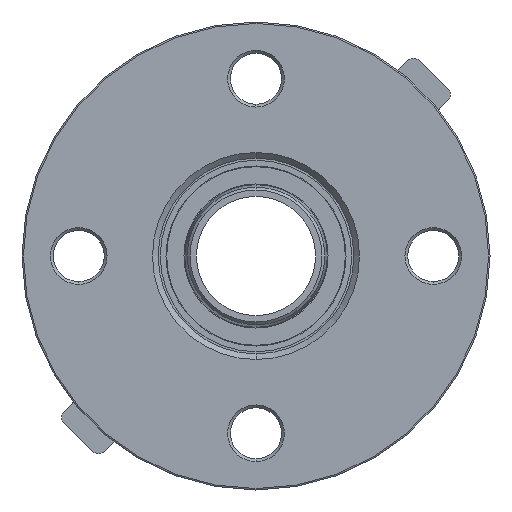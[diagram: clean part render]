
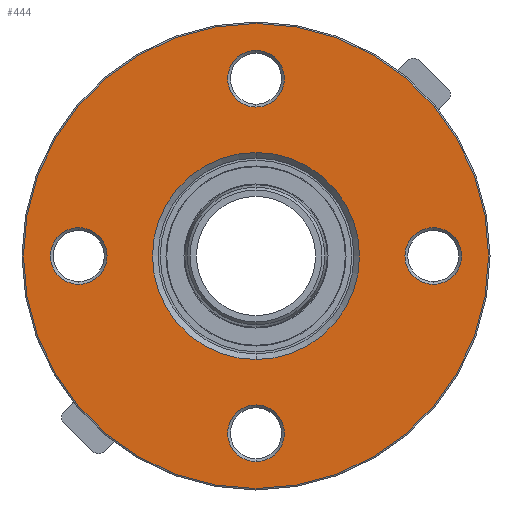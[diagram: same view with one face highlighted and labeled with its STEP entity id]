
A CAD part, left-side view. The second image highlights one B-rep face of the part: STEP entity #444.
In plain terms, the highlighted planar face has unit normal (-1, 0, 0).
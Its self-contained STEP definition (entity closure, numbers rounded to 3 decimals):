
#74 = VERTEX_POINT ( 'NONE', #1128 ) ;
#78 = EDGE_CURVE ( 'NONE', #120, #79, #1077, .T. ) ;
#79 = VERTEX_POINT ( 'NONE', #1074 ) ;
#103 = VERTEX_POINT ( 'NONE', #1293 ) ;
#105 = VERTEX_POINT ( 'NONE', #1275 ) ;
#108 = EDGE_CURVE ( 'NONE', #74, #103, #1294, .T. ) ;
#118 = VERTEX_POINT ( 'NONE', #1382 ) ;
#119 = EDGE_CURVE ( 'NONE', #118, #105, #1416, .T. ) ;
#120 = VERTEX_POINT ( 'NONE', #1412 ) ;
#195 = EDGE_CURVE ( 'NONE', #365, #366, #1494, .T. ) ;
#237 = EDGE_CURVE ( 'NONE', #253, #240, #1533, .T. ) ;
#240 = VERTEX_POINT ( 'NONE', #1572 ) ;
#252 = EDGE_CURVE ( 'NONE', #374, #375, #1577, .T. ) ;
#253 = VERTEX_POINT ( 'NONE', #1560 ) ;
#365 = VERTEX_POINT ( 'NONE', #1747 ) ;
#366 = VERTEX_POINT ( 'NONE', #1754 ) ;
#374 = VERTEX_POINT ( 'NONE', #1696 ) ;
#375 = VERTEX_POINT ( 'NONE', #1701 ) ;
#386 = ORIENTED_EDGE ( 'NONE', *, *, #626, .T. ) ;
#388 = ORIENTED_EDGE ( 'NONE', *, *, #237, .T. ) ;
#389 = EDGE_LOOP ( 'NONE', ( #628, #751 ) ) ;
#396 = EDGE_CURVE ( 'NONE', #105, #118, #1782, .T. ) ;
#436 = EDGE_LOOP ( 'NONE', ( #538, #530 ) ) ;
#443 = EDGE_LOOP ( 'NONE', ( #452, #445 ) ) ;
#444 = ADVANCED_FACE ( 'NONE', ( #2093, #1927, #2081, #1925, #1924, #1922 ), #1926, .F. ) ;
#445 = ORIENTED_EDGE ( 'NONE', *, *, #446, .T. ) ;
#446 = EDGE_CURVE ( 'NONE', #79, #120, #1913, .T. ) ;
#452 = ORIENTED_EDGE ( 'NONE', *, *, #78, .T. ) ;
#453 = ORIENTED_EDGE ( 'NONE', *, *, #119, .T. ) ;
#512 = EDGE_CURVE ( 'NONE', #375, #374, #1982, .T. ) ;
#513 = EDGE_LOOP ( 'NONE', ( #453, #765 ) ) ;
#530 = ORIENTED_EDGE ( 'NONE', *, *, #512, .T. ) ;
#538 = ORIENTED_EDGE ( 'NONE', *, *, #252, .T. ) ;
#625 = EDGE_CURVE ( 'NONE', #103, #74, #2116, .T. ) ;
#626 = EDGE_CURVE ( 'NONE', #240, #253, #2108, .T. ) ;
#628 = ORIENTED_EDGE ( 'NONE', *, *, #108, .T. ) ;
#639 = ORIENTED_EDGE ( 'NONE', *, *, #195, .T. ) ;
#750 = EDGE_LOOP ( 'NONE', ( #639, #762 ) ) ;
#751 = ORIENTED_EDGE ( 'NONE', *, *, #625, .T. ) ;
#752 = EDGE_LOOP ( 'NONE', ( #386, #388 ) ) ;
#762 = ORIENTED_EDGE ( 'NONE', *, *, #764, .T. ) ;
#764 = EDGE_CURVE ( 'NONE', #366, #365, #2444, .T. ) ;
#765 = ORIENTED_EDGE ( 'NONE', *, *, #396, .T. ) ;
#1071 = DIRECTION ( 'NONE',  ( 0., 0., -1. ) ) ;
#1072 = DIRECTION ( 'NONE',  ( 1., 0., 0. ) ) ;
#1073 = CARTESIAN_POINT ( 'NONE',  ( -29.224, -55.252, 10.787 ) ) ;
#1074 = CARTESIAN_POINT ( 'NONE',  ( -29.224, -55.252, 0.787 ) ) ;
#1077 = CIRCLE ( 'NONE', #1152, 10. ) ;
#1128 = CARTESIAN_POINT ( 'NONE',  ( -29.224, 7.248, 83.287 ) ) ;
#1152 = AXIS2_PLACEMENT_3D ( 'NONE', #1073, #1072, #1071 ) ;
#1258 = DIRECTION ( 'NONE',  ( 0., 0., -1. ) ) ;
#1259 = DIRECTION ( 'NONE',  ( 1., 0., 0. ) ) ;
#1260 = CARTESIAN_POINT ( 'NONE',  ( -29.224, 7.248, 73.287 ) ) ;
#1261 = AXIS2_PLACEMENT_3D ( 'NONE', #1260, #1259, #1258 ) ;
#1275 = CARTESIAN_POINT ( 'NONE',  ( -29.224, 69.748, 0.787 ) ) ;
#1293 = CARTESIAN_POINT ( 'NONE',  ( -29.224, 7.248, 63.287 ) ) ;
#1294 = CIRCLE ( 'NONE', #1261, 10. ) ;
#1382 = CARTESIAN_POINT ( 'NONE',  ( -29.224, 69.748, 20.787 ) ) ;
#1409 = DIRECTION ( 'NONE',  ( 0., 0., -1. ) ) ;
#1410 = DIRECTION ( 'NONE',  ( 1., 0., 0. ) ) ;
#1411 = CARTESIAN_POINT ( 'NONE',  ( -29.224, 69.748, 10.787 ) ) ;
#1412 = CARTESIAN_POINT ( 'NONE',  ( -29.224, -55.252, 20.787 ) ) ;
#1416 = CIRCLE ( 'NONE', #1422, 10. ) ;
#1422 = AXIS2_PLACEMENT_3D ( 'NONE', #1411, #1410, #1409 ) ;
#1466 = DIRECTION ( 'NONE',  ( 0., 0., -1. ) ) ;
#1467 = DIRECTION ( 'NONE',  ( 1., 0., 0. ) ) ;
#1468 = CARTESIAN_POINT ( 'NONE',  ( -29.224, 7.248, -51.713 ) ) ;
#1469 = AXIS2_PLACEMENT_3D ( 'NONE', #1468, #1467, #1466 ) ;
#1479 = DIRECTION ( 'NONE',  ( 0., 0., -1. ) ) ;
#1480 = DIRECTION ( 'NONE',  ( 1., 0., 0. ) ) ;
#1481 = CARTESIAN_POINT ( 'NONE',  ( -29.224, 7.248, 10.787 ) ) ;
#1494 = CIRCLE ( 'NONE', #1499, 36.5 ) ;
#1499 = AXIS2_PLACEMENT_3D ( 'NONE', #1481, #1480, #1479 ) ;
#1533 = CIRCLE ( 'NONE', #1583, 82. ) ;
#1560 = CARTESIAN_POINT ( 'NONE',  ( -29.224, 7.248, 92.787 ) ) ;
#1572 = CARTESIAN_POINT ( 'NONE',  ( -29.224, 7.248, -71.213 ) ) ;
#1577 = CIRCLE ( 'NONE', #1469, 10. ) ;
#1580 = DIRECTION ( 'NONE',  ( 0., 0., -1. ) ) ;
#1581 = DIRECTION ( 'NONE',  ( -1., 0., 0. ) ) ;
#1582 = CARTESIAN_POINT ( 'NONE',  ( -29.224, 7.248, 10.787 ) ) ;
#1583 = AXIS2_PLACEMENT_3D ( 'NONE', #1582, #1581, #1580 ) ;
#1696 = CARTESIAN_POINT ( 'NONE',  ( -29.224, 7.248, -41.713 ) ) ;
#1701 = CARTESIAN_POINT ( 'NONE',  ( -29.224, 7.248, -61.713 ) ) ;
#1747 = CARTESIAN_POINT ( 'NONE',  ( -29.224, 7.248, 47.287 ) ) ;
#1754 = CARTESIAN_POINT ( 'NONE',  ( -29.224, 7.248, -25.713 ) ) ;
#1779 = DIRECTION ( 'NONE',  ( 0., 0., -1. ) ) ;
#1780 = DIRECTION ( 'NONE',  ( 1., 0., 0. ) ) ;
#1781 = CARTESIAN_POINT ( 'NONE',  ( -29.224, 69.748, 10.787 ) ) ;
#1782 = CIRCLE ( 'NONE', #1799, 10. ) ;
#1799 = AXIS2_PLACEMENT_3D ( 'NONE', #1781, #1780, #1779 ) ;
#1910 = DIRECTION ( 'NONE',  ( 0., 0., -1. ) ) ;
#1911 = DIRECTION ( 'NONE',  ( 1., 0., 0. ) ) ;
#1912 = CARTESIAN_POINT ( 'NONE',  ( -29.224, -55.252, 10.787 ) ) ;
#1913 = CIRCLE ( 'NONE', #1916, 10. ) ;
#1915 = DIRECTION ( 'NONE',  ( 0., 0., -1. ) ) ;
#1916 = AXIS2_PLACEMENT_3D ( 'NONE', #1912, #1911, #1910 ) ;
#1918 = CARTESIAN_POINT ( 'NONE',  ( -29.224, 7.248, 10.787 ) ) ;
#1922 = FACE_BOUND ( 'NONE', #750, .T. ) ;
#1923 = AXIS2_PLACEMENT_3D ( 'NONE', #1918, #2085, #1915 ) ;
#1924 = FACE_OUTER_BOUND ( 'NONE', #752, .T. ) ;
#1925 = FACE_BOUND ( 'NONE', #389, .T. ) ;
#1926 = PLANE ( 'NONE',  #1923 ) ;
#1927 = FACE_BOUND ( 'NONE', #443, .T. ) ;
#1979 = DIRECTION ( 'NONE',  ( 0., 0., -1. ) ) ;
#1980 = DIRECTION ( 'NONE',  ( 1., 0., 0. ) ) ;
#1981 = CARTESIAN_POINT ( 'NONE',  ( -29.224, 7.248, -51.713 ) ) ;
#1982 = CIRCLE ( 'NONE', #2008, 10. ) ;
#2008 = AXIS2_PLACEMENT_3D ( 'NONE', #1981, #1980, #1979 ) ;
#2081 = FACE_BOUND ( 'NONE', #513, .T. ) ;
#2085 = DIRECTION ( 'NONE',  ( 1., 0., 0. ) ) ;
#2093 = FACE_BOUND ( 'NONE', #436, .T. ) ;
#2105 = DIRECTION ( 'NONE',  ( 0., 0., -1. ) ) ;
#2106 = DIRECTION ( 'NONE',  ( -1., 0., 0. ) ) ;
#2107 = CARTESIAN_POINT ( 'NONE',  ( -29.224, 7.248, 10.787 ) ) ;
#2108 = CIRCLE ( 'NONE', #2286, 82. ) ;
#2113 = DIRECTION ( 'NONE',  ( 0., 0., -1. ) ) ;
#2114 = DIRECTION ( 'NONE',  ( 1., 0., 0. ) ) ;
#2115 = CARTESIAN_POINT ( 'NONE',  ( -29.224, 7.248, 73.287 ) ) ;
#2116 = CIRCLE ( 'NONE', #2288, 10. ) ;
#2286 = AXIS2_PLACEMENT_3D ( 'NONE', #2107, #2106, #2105 ) ;
#2288 = AXIS2_PLACEMENT_3D ( 'NONE', #2115, #2114, #2113 ) ;
#2444 = CIRCLE ( 'NONE', #2451, 36.5 ) ;
#2451 = AXIS2_PLACEMENT_3D ( 'NONE', #2457, #2456, #2455 ) ;
#2455 = DIRECTION ( 'NONE',  ( 0., 0., -1. ) ) ;
#2456 = DIRECTION ( 'NONE',  ( 1., 0., 0. ) ) ;
#2457 = CARTESIAN_POINT ( 'NONE',  ( -29.224, 7.248, 10.787 ) ) ;
